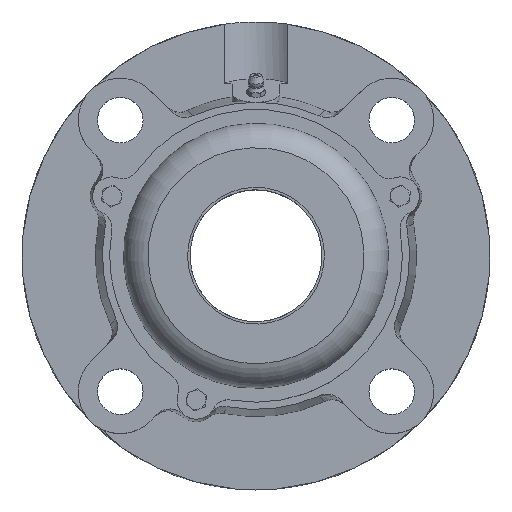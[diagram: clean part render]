
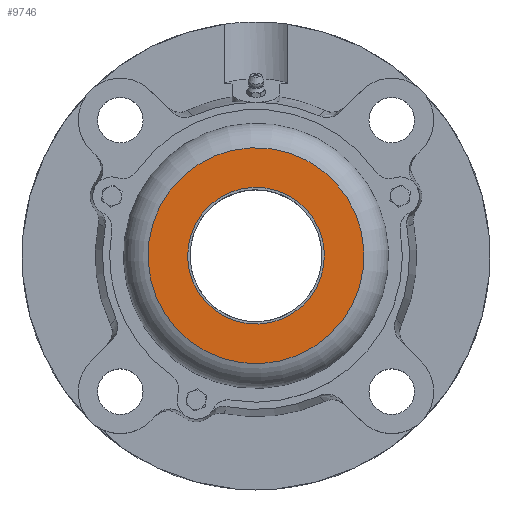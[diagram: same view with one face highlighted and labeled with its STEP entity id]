
A CAD part, top view. The second image highlights one B-rep face of the part: STEP entity #9746.
In plain terms, the highlighted planar face has unit normal (0, 0, 1).
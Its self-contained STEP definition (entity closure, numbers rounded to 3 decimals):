
#9011=CARTESIAN_POINT('',(28.5,0.,36.5));
#9012=VERTEX_POINT('',#9011);
#9013=CARTESIAN_POINT('',(0.0,0.0,36.5));
#9014=DIRECTION('',(0.0,0.0,-1.0));
#9015=DIRECTION('',(-1.0,0.0,0.0));
#9016=AXIS2_PLACEMENT_3D('',#9013,#9014,#9015);
#9017=CIRCLE('',#9016,28.5);
#9018=EDGE_CURVE('',#9012,#9012,#9017,.T.);
#9720=CARTESIAN_POINT('',(0.0,45.0,36.5));
#9721=VERTEX_POINT('',#9720);
#9722=CARTESIAN_POINT('',(0.0,0.,36.5));
#9723=DIRECTION('',(0.0,0.0,1.0));
#9724=DIRECTION('',(0.0,1.0,0.0));
#9725=AXIS2_PLACEMENT_3D('',#9722,#9723,#9724);
#9726=CIRCLE('',#9725,45.);
#9727=EDGE_CURVE('',#9721,#9721,#9726,.T.);
#9735=CARTESIAN_POINT('',(0.,65.557,36.5));
#9736=DIRECTION('',(0.0,0.0,1.0));
#9737=DIRECTION('',(1.0,0.0,0.0));
#9738=AXIS2_PLACEMENT_3D('',#9735,#9736,#9737);
#9739=PLANE('',#9738);
#9740=ORIENTED_EDGE('',*,*,#9727,.T.);
#9741=EDGE_LOOP('',(#9740));
#9742=FACE_OUTER_BOUND('',#9741,.T.);
#9743=ORIENTED_EDGE('',*,*,#9018,.T.);
#9744=EDGE_LOOP('',(#9743));
#9745=FACE_BOUND('',#9744,.T.);
#9746=ADVANCED_FACE('',(#9742,#9745),#9739,.T.);
